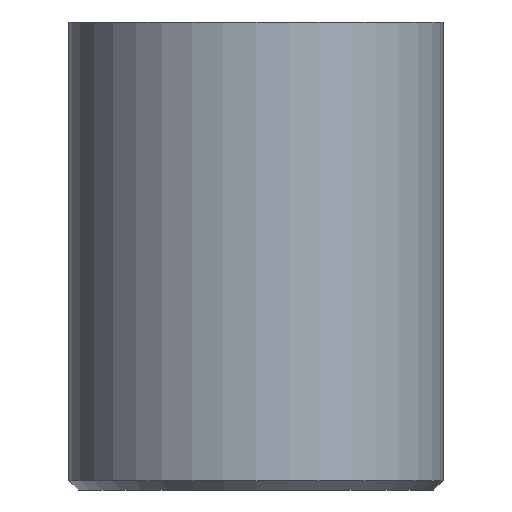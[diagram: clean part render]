
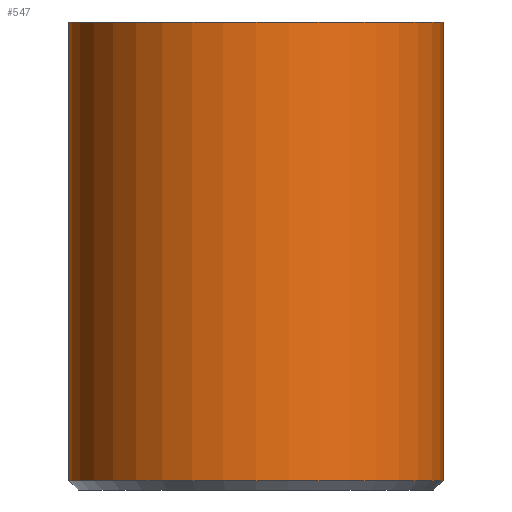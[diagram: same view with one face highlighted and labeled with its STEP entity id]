
A CAD part, front view. The second image highlights one B-rep face of the part: STEP entity #547.
In plain terms, the highlighted cylindrical face has radius 4 mm (diameter 8 mm), a partial arc.
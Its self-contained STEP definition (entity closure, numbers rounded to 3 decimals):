
#10 = LINE ( 'NONE', #244, #256 ) ;
#80 = CARTESIAN_POINT ( 'NONE',  ( -4., 0., 0. ) ) ;
#97 = AXIS2_PLACEMENT_3D ( 'NONE', #430, #429, #427 ) ;
#121 = VERTEX_POINT ( 'NONE', #394 ) ;
#145 = DIRECTION ( 'NONE',  ( 0., 0., 1. ) ) ;
#191 = AXIS2_PLACEMENT_3D ( 'NONE', #250, #248, #265 ) ;
#213 = CARTESIAN_POINT ( 'NONE',  ( 4., 0., 1. ) ) ;
#227 = EDGE_CURVE ( 'NONE', #762, #121, #275, .T. ) ;
#235 = EDGE_CURVE ( 'NONE', #791, #762, #10, .T. ) ;
#244 = CARTESIAN_POINT ( 'NONE',  ( -4., 0., 1. ) ) ;
#248 = DIRECTION ( 'NONE',  ( 0., 0., 1. ) ) ;
#250 = CARTESIAN_POINT ( 'NONE',  ( 0., 0., 0. ) ) ;
#256 = VECTOR ( 'NONE', #145, 1000. ) ;
#265 = DIRECTION ( 'NONE',  ( 1., 0., 0. ) ) ;
#275 = CIRCLE ( 'NONE', #191, 4. ) ;
#345 = CIRCLE ( 'NONE', #97, 4. ) ;
#358 = VERTEX_POINT ( 'NONE', #725 ) ;
#359 = DIRECTION ( 'NONE',  ( 1., 0., 0. ) ) ;
#368 = DIRECTION ( 'NONE',  ( 0., 0., 1. ) ) ;
#394 = CARTESIAN_POINT ( 'NONE',  ( 4., 0., 0. ) ) ;
#396 = ORIENTED_EDGE ( 'NONE', *, *, #536, .T. ) ;
#399 = DIRECTION ( 'NONE',  ( 0., 0., 1. ) ) ;
#400 = CARTESIAN_POINT ( 'NONE',  ( 0., 0., 1. ) ) ;
#427 = DIRECTION ( 'NONE',  ( 1., 0., 0. ) ) ;
#429 = DIRECTION ( 'NONE',  ( 0., 0., 1. ) ) ;
#430 = CARTESIAN_POINT ( 'NONE',  ( 0., 0., -9.8 ) ) ;
#449 = EDGE_LOOP ( 'NONE', ( #525, #396, #482, #776 ) ) ;
#482 = ORIENTED_EDGE ( 'NONE', *, *, #752, .T. ) ;
#522 = CYLINDRICAL_SURFACE ( 'NONE', #750, 4. ) ;
#525 = ORIENTED_EDGE ( 'NONE', *, *, #235, .F. ) ;
#536 = EDGE_CURVE ( 'NONE', #791, #358, #345, .T. ) ;
#547 = ADVANCED_FACE ( 'NONE', ( #613 ), #522, .T. ) ;
#613 = FACE_OUTER_BOUND ( 'NONE', #449, .T. ) ;
#725 = CARTESIAN_POINT ( 'NONE',  ( 4., 0., -9.8 ) ) ;
#726 = VECTOR ( 'NONE', #368, 1000. ) ;
#741 = CARTESIAN_POINT ( 'NONE',  ( -4., 0., -9.8 ) ) ;
#750 = AXIS2_PLACEMENT_3D ( 'NONE', #400, #399, #359 ) ;
#752 = EDGE_CURVE ( 'NONE', #358, #121, #755, .T. ) ;
#755 = LINE ( 'NONE', #213, #726 ) ;
#762 = VERTEX_POINT ( 'NONE', #80 ) ;
#776 = ORIENTED_EDGE ( 'NONE', *, *, #227, .F. ) ;
#791 = VERTEX_POINT ( 'NONE', #741 ) ;
